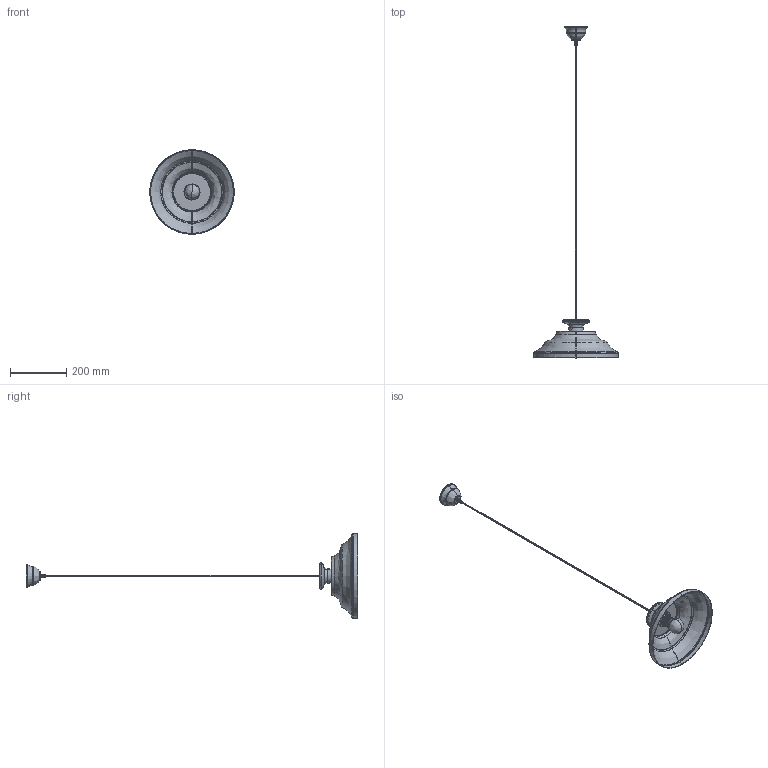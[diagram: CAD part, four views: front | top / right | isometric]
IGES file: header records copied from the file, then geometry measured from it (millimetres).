
Start section: SolidWorks IGES file using analytic representation for surfaces
Global section: file name: E:\Modele 3D_¿arówki_oprawki_kostki\¯arówki\Onda wood.IGS; native system: SolidWorks 2016; preprocessor: SolidWorks 2016; author: Asia; date: 161020.151830; units: millimetre
Bounding box: 300 x 1180.34 x 300 mm (x, y, z)
Surface area: 339651.5 mm2 (no closed solid volume)
Topology: 0 solids, 0 shells, 746 faces, 8136 edges, 8134 vertices
Faces by surface type: bspline 419, revolution 327
